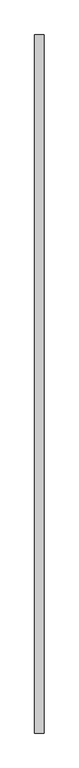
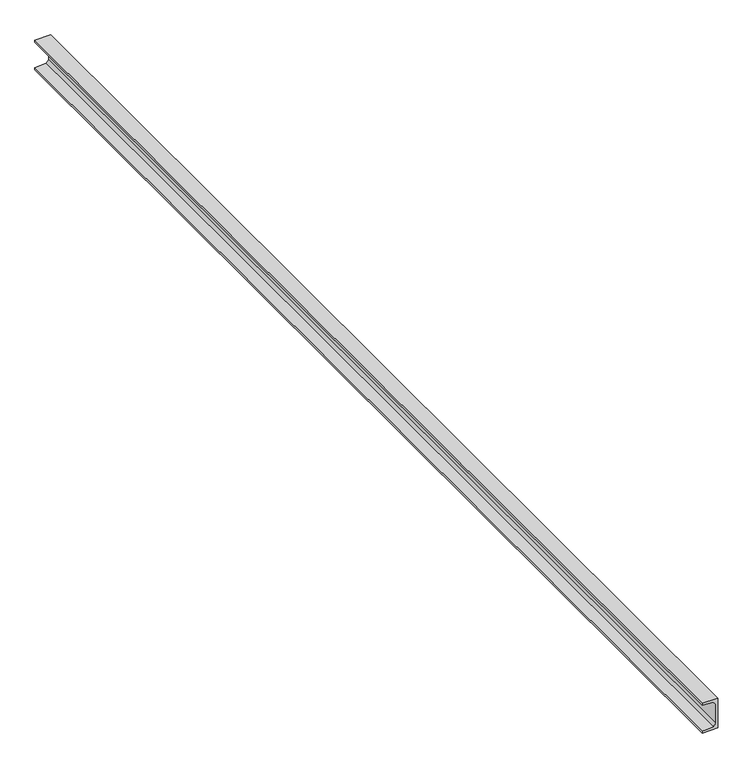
"""IFC4 building model written with IfcOpenShell, lengths in millimetres: beam geometry, Murailli?re 174801 : Murailli?re 174801."""

from ifc_helpers import new_model, si_unit, frame, origin, place, context, project, spatial, polyline, outline, extrude, source, transform, mapped, element, save


def beam_a7fee71c(model_context):
    return source(origin(), model_context, "Body", "SweptSolid", [
        extrude(outline(polyline([(7402.425, 15339.9999999), (7395.925, 15339.9999999), (7395.925, 15389.9999999), (7495.925, 15389.9999999), (7495.925, 15339.9999999), (7489.425, 15339.9999999), (7486.585, 15375.4999999), (7477.405, 15383.9999999), (7414.445, 15383.9999999), (7405.265, 15375.4999999), (7402.425, 15339.9999999)])), frame((0.0, -23459.5, 0.0), z_axis=(0.0, 1.0, 0.0), x_axis=(0.0, 0.0, 1.0)), (0.0, 0.0, 1.0), 3681.5),
    ])


if __name__ == "__main__":
    model = new_model("IFC4")
    model_context = context("Model", 3, world=origin())
    ifc_project = project(units=[si_unit("LENGTHUNIT", "METRE", prefix="MILLI")], contexts=[model_context])
    site = spatial("IfcSite", under=ifc_project)
    building = spatial("IfcBuilding", under=site)
    placement = place(None, origin())
    beam_shape = beam_a7fee71c(model_context)
    element("IfcBeam", 1, ObjectType="Murailli?re 174801 : Murailli?re 174801", at=placement, inside=building, context=model_context, shape_type="MappedRepresentation", body=[
        mapped(beam_shape, transform((0.0, 0.0, 0.0), x_axis=(1.0, 0.0, 0.0), y_axis=(0.0, 1.0, 0.0), z_axis=(0.0, 0.0, 1.0))),
    ])
    save(model, "model.ifc")
